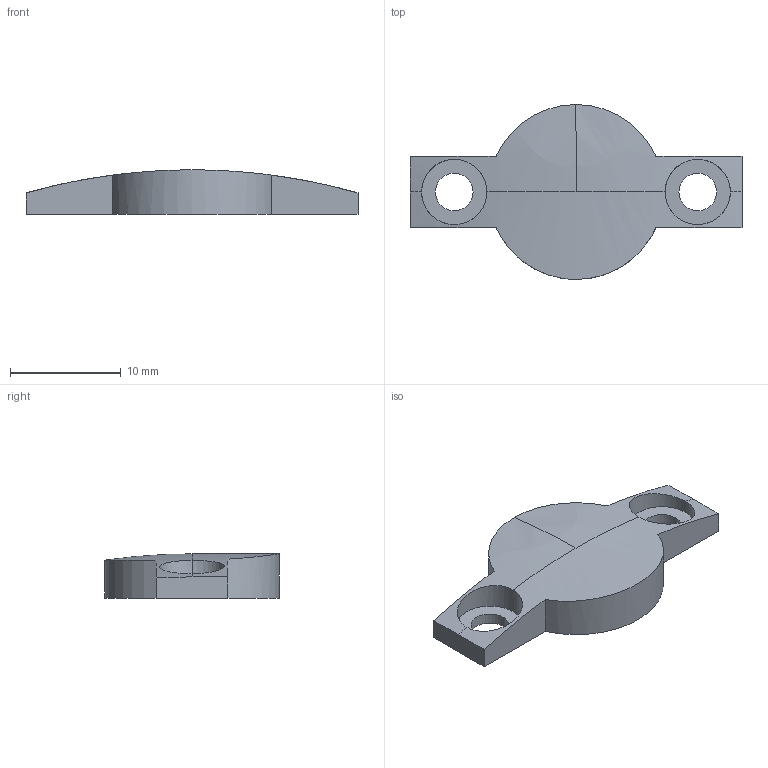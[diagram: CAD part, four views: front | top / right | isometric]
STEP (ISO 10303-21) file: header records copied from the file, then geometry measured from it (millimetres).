
FILE_DESCRIPTION((''),'2;1');
FILE_NAME('ART4BBEARINGFIX','2022-08-24T09:27:14',('domen.bizjak'),('Audax d.o.o.'),'CREO PARAMETRIC BY PTC INC, 2021184','CREO PARAMETRIC BY PTC INC, 2021184','');
FILE_SCHEMA(('AP242_MANAGED_MODEL_BASED_3D_ENGINEERING_MIM_LF { 1 0 10303 442 1 1 4 }'));
Length unit declared in the file: millimetre
Products named in the file (1): ART4BBEARINGFIX
Bounding box: 30 x 15.8 x 4 mm (x, y, z)
Volume: 885.6 mm3; surface area: 879.5 mm2
Topology: 1 solids, 1 shells, 22 faces, 62 edges, 43 vertices
Faces by surface type: cylinder 11, plane 9, sphere 2
Entity records: 1640 total; most frequent: COLOUR_RGB 319, CARTESIAN_POINT 259, DIRECTION 155, ORIENTED_EDGE 114, PRESENTATION_STYLE_ASSIGNMENT 67, STYLED_ITEM 67, AXIS2_PLACEMENT_3D 64, CURVE_STYLE 62
